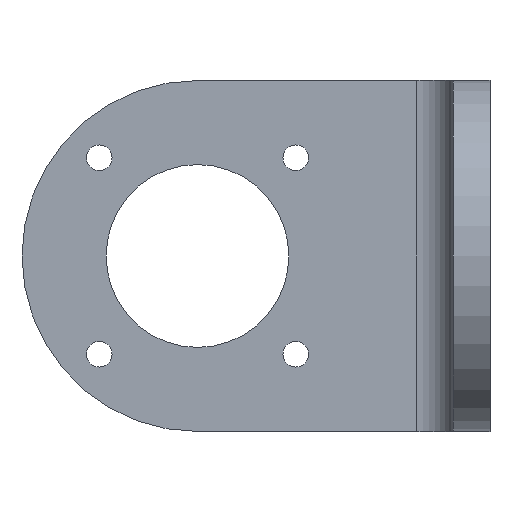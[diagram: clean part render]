
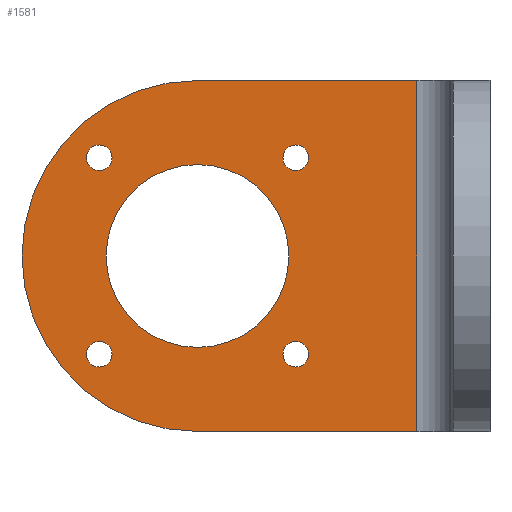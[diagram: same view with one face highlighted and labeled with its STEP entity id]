
A CAD part, left-side view. The second image highlights one B-rep face of the part: STEP entity #1581.
In plain terms, the highlighted planar face has unit normal (-1, 0, 0).
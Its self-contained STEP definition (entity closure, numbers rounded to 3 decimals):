
#12 = EDGE_CURVE ( 'NONE', #1565, #38, #1271, .T. ) ;
#13 = CARTESIAN_POINT ( 'NONE',  ( 55., 40., 0. ) ) ;
#14 = CIRCLE ( 'NONE', #1438, 1.75 ) ;
#18 = DIRECTION ( 'NONE',  ( 1., 0., 0. ) ) ;
#25 = EDGE_CURVE ( 'NONE', #1611, #418, #1558, .T. ) ;
#38 = VERTEX_POINT ( 'NONE', #713 ) ;
#64 = ORIENTED_EDGE ( 'NONE', *, *, #465, .F. ) ;
#65 = DIRECTION ( 'NONE',  ( 0., 0., -1. ) ) ;
#66 = ORIENTED_EDGE ( 'NONE', *, *, #527, .F. ) ;
#79 = DIRECTION ( 'NONE',  ( 0., 0., -1. ) ) ;
#93 = CARTESIAN_POINT ( 'NONE',  ( 55., 26.565, -15.185 ) ) ;
#101 = CARTESIAN_POINT ( 'NONE',  ( 55., 26.565, 13.435 ) ) ;
#112 = AXIS2_PLACEMENT_3D ( 'NONE', #467, #742, #79 ) ;
#132 = EDGE_CURVE ( 'NONE', #418, #1611, #1300, .T. ) ;
#136 = ORIENTED_EDGE ( 'NONE', *, *, #322, .T. ) ;
#153 = FACE_BOUND ( 'NONE', #1257, .T. ) ;
#156 = AXIS2_PLACEMENT_3D ( 'NONE', #1393, #261, #1516 ) ;
#157 = VECTOR ( 'NONE', #1122, 1000. ) ;
#160 = DIRECTION ( 'NONE',  ( 0., 0., -1. ) ) ;
#173 = DIRECTION ( 'NONE',  ( 1., 0., 0. ) ) ;
#176 = EDGE_CURVE ( 'NONE', #1221, #210, #327, .T. ) ;
#193 = CARTESIAN_POINT ( 'NONE',  ( 55., 10., 24. ) ) ;
#198 = AXIS2_PLACEMENT_3D ( 'NONE', #101, #603, #1115 ) ;
#210 = VERTEX_POINT ( 'NONE', #753 ) ;
#213 = VERTEX_POINT ( 'NONE', #253 ) ;
#239 = CARTESIAN_POINT ( 'NONE',  ( 55., 0., 24. ) ) ;
#253 = CARTESIAN_POINT ( 'NONE',  ( 55., 40., -24. ) ) ;
#260 = ORIENTED_EDGE ( 'NONE', *, *, #176, .T. ) ;
#261 = DIRECTION ( 'NONE',  ( 1., 0., 0. ) ) ;
#273 = AXIS2_PLACEMENT_3D ( 'NONE', #934, #816, #1330 ) ;
#278 = VERTEX_POINT ( 'NONE', #193 ) ;
#288 = CARTESIAN_POINT ( 'NONE',  ( 55., 26.565, -11.685 ) ) ;
#290 = DIRECTION ( 'NONE',  ( 1., 0., 0. ) ) ;
#293 = CARTESIAN_POINT ( 'NONE',  ( 55., 40., 24. ) ) ;
#314 = EDGE_CURVE ( 'NONE', #38, #1565, #1149, .T. ) ;
#318 = ORIENTED_EDGE ( 'NONE', *, *, #314, .T. ) ;
#322 = EDGE_CURVE ( 'NONE', #1032, #278, #434, .T. ) ;
#325 = EDGE_CURVE ( 'NONE', #580, #1183, #14, .T. ) ;
#327 = CIRCLE ( 'NONE', #379, 12.5 ) ;
#357 = DIRECTION ( 'NONE',  ( 0., 0., -1. ) ) ;
#364 = DIRECTION ( 'NONE',  ( 1., 0., 0. ) ) ;
#369 = LINE ( 'NONE', #1367, #157 ) ;
#379 = AXIS2_PLACEMENT_3D ( 'NONE', #476, #1620, #450 ) ;
#388 = VERTEX_POINT ( 'NONE', #293 ) ;
#394 = PLANE ( 'NONE',  #156 ) ;
#405 = CARTESIAN_POINT ( 'NONE',  ( 55., 26.565, -13.435 ) ) ;
#411 = CARTESIAN_POINT ( 'NONE',  ( 55., 53.435, -13.435 ) ) ;
#418 = VERTEX_POINT ( 'NONE', #1354 ) ;
#420 = ORIENTED_EDGE ( 'NONE', *, *, #132, .T. ) ;
#432 = AXIS2_PLACEMENT_3D ( 'NONE', #937, #173, #65 ) ;
#434 = LINE ( 'NONE', #672, #863 ) ;
#450 = DIRECTION ( 'NONE',  ( 0., 0., -1. ) ) ;
#465 = EDGE_CURVE ( 'NONE', #1032, #213, #369, .T. ) ;
#467 = CARTESIAN_POINT ( 'NONE',  ( 55., 53.435, -13.435 ) ) ;
#476 = CARTESIAN_POINT ( 'NONE',  ( 55., 40., 0. ) ) ;
#479 = AXIS2_PLACEMENT_3D ( 'NONE', #411, #290, #160 ) ;
#500 = DIRECTION ( 'NONE',  ( 0., 0., -1. ) ) ;
#514 = CARTESIAN_POINT ( 'NONE',  ( 55., 26.565, 11.685 ) ) ;
#516 = DIRECTION ( 'NONE',  ( 1., 0., 0. ) ) ;
#527 = EDGE_CURVE ( 'NONE', #213, #388, #1267, .T. ) ;
#536 = ORIENTED_EDGE ( 'NONE', *, *, #325, .T. ) ;
#555 = AXIS2_PLACEMENT_3D ( 'NONE', #13, #993, #605 ) ;
#571 = EDGE_CURVE ( 'NONE', #210, #1221, #1346, .T. ) ;
#580 = VERTEX_POINT ( 'NONE', #630 ) ;
#584 = EDGE_LOOP ( 'NONE', ( #1557, #536 ) ) ;
#603 = DIRECTION ( 'NONE',  ( 1., 0., 0. ) ) ;
#605 = DIRECTION ( 'NONE',  ( 0., 0., -1. ) ) ;
#630 = CARTESIAN_POINT ( 'NONE',  ( 55., 26.565, 15.185 ) ) ;
#640 = FACE_BOUND ( 'NONE', #1432, .T. ) ;
#666 = VERTEX_POINT ( 'NONE', #288 ) ;
#672 = CARTESIAN_POINT ( 'NONE',  ( 55., 10., 0. ) ) ;
#680 = DIRECTION ( 'NONE',  ( 1., 0., 0. ) ) ;
#713 = CARTESIAN_POINT ( 'NONE',  ( 55., 53.435, 15.185 ) ) ;
#730 = CIRCLE ( 'NONE', #198, 1.75 ) ;
#742 = DIRECTION ( 'NONE',  ( 1., 0., 0. ) ) ;
#753 = CARTESIAN_POINT ( 'NONE',  ( 55., 40., -12.5 ) ) ;
#763 = CARTESIAN_POINT ( 'NONE',  ( 55., 53.435, 11.685 ) ) ;
#795 = VERTEX_POINT ( 'NONE', #93 ) ;
#816 = DIRECTION ( 'NONE',  ( 1., 0., 0. ) ) ;
#830 = DIRECTION ( 'NONE',  ( 0., 0., -1. ) ) ;
#863 = VECTOR ( 'NONE', #1431, 1000. ) ;
#889 = EDGE_LOOP ( 'NONE', ( #64, #136, #1152, #66 ) ) ;
#890 = FACE_BOUND ( 'NONE', #1463, .T. ) ;
#934 = CARTESIAN_POINT ( 'NONE',  ( 55., 53.435, 13.435 ) ) ;
#937 = CARTESIAN_POINT ( 'NONE',  ( 55., 53.435, 13.435 ) ) ;
#946 = AXIS2_PLACEMENT_3D ( 'NONE', #1125, #364, #357 ) ;
#989 = LINE ( 'NONE', #239, #1622 ) ;
#991 = EDGE_CURVE ( 'NONE', #666, #795, #1050, .T. ) ;
#993 = DIRECTION ( 'NONE',  ( 1., 0., 0. ) ) ;
#1016 = FACE_BOUND ( 'NONE', #1076, .T. ) ;
#1018 = DIRECTION ( 'NONE',  ( 0., 0., -1. ) ) ;
#1023 = FACE_OUTER_BOUND ( 'NONE', #889, .T. ) ;
#1032 = VERTEX_POINT ( 'NONE', #1360 ) ;
#1050 = CIRCLE ( 'NONE', #946, 1.75 ) ;
#1055 = EDGE_CURVE ( 'NONE', #1183, #580, #730, .T. ) ;
#1057 = AXIS2_PLACEMENT_3D ( 'NONE', #1236, #516, #500 ) ;
#1074 = EDGE_CURVE ( 'NONE', #388, #278, #989, .T. ) ;
#1076 = EDGE_LOOP ( 'NONE', ( #1103, #260 ) ) ;
#1103 = ORIENTED_EDGE ( 'NONE', *, *, #571, .T. ) ;
#1108 = ORIENTED_EDGE ( 'NONE', *, *, #991, .T. ) ;
#1115 = DIRECTION ( 'NONE',  ( 0., 0., -1. ) ) ;
#1122 = DIRECTION ( 'NONE',  ( 0., 1., 0. ) ) ;
#1125 = CARTESIAN_POINT ( 'NONE',  ( 55., 26.565, -13.435 ) ) ;
#1138 = EDGE_CURVE ( 'NONE', #795, #666, #1146, .T. ) ;
#1146 = CIRCLE ( 'NONE', #1564, 1.75 ) ;
#1149 = CIRCLE ( 'NONE', #432, 1.75 ) ;
#1152 = ORIENTED_EDGE ( 'NONE', *, *, #1074, .F. ) ;
#1157 = ORIENTED_EDGE ( 'NONE', *, *, #25, .T. ) ;
#1183 = VERTEX_POINT ( 'NONE', #514 ) ;
#1221 = VERTEX_POINT ( 'NONE', #1290 ) ;
#1236 = CARTESIAN_POINT ( 'NONE',  ( 55., 40., 0. ) ) ;
#1257 = EDGE_LOOP ( 'NONE', ( #1466, #1108 ) ) ;
#1267 = CIRCLE ( 'NONE', #1057, 24. ) ;
#1271 = CIRCLE ( 'NONE', #273, 1.75 ) ;
#1272 = CARTESIAN_POINT ( 'NONE',  ( 55., 53.435, -15.185 ) ) ;
#1290 = CARTESIAN_POINT ( 'NONE',  ( 55., 40., 12.5 ) ) ;
#1295 = FACE_BOUND ( 'NONE', #584, .T. ) ;
#1300 = CIRCLE ( 'NONE', #112, 1.75 ) ;
#1330 = DIRECTION ( 'NONE',  ( 0., 0., -1. ) ) ;
#1346 = CIRCLE ( 'NONE', #555, 12.5 ) ;
#1354 = CARTESIAN_POINT ( 'NONE',  ( 55., 53.435, -11.685 ) ) ;
#1360 = CARTESIAN_POINT ( 'NONE',  ( 55., 10., -24. ) ) ;
#1367 = CARTESIAN_POINT ( 'NONE',  ( 55., 0., -24. ) ) ;
#1378 = ORIENTED_EDGE ( 'NONE', *, *, #12, .T. ) ;
#1393 = CARTESIAN_POINT ( 'NONE',  ( 55., 0., 0. ) ) ;
#1431 = DIRECTION ( 'NONE',  ( 0., 0., 1. ) ) ;
#1432 = EDGE_LOOP ( 'NONE', ( #1157, #420 ) ) ;
#1438 = AXIS2_PLACEMENT_3D ( 'NONE', #1575, #680, #830 ) ;
#1463 = EDGE_LOOP ( 'NONE', ( #1378, #318 ) ) ;
#1466 = ORIENTED_EDGE ( 'NONE', *, *, #1138, .T. ) ;
#1516 = DIRECTION ( 'NONE',  ( 0., 0., -1. ) ) ;
#1557 = ORIENTED_EDGE ( 'NONE', *, *, #1055, .T. ) ;
#1558 = CIRCLE ( 'NONE', #479, 1.75 ) ;
#1564 = AXIS2_PLACEMENT_3D ( 'NONE', #405, #18, #1018 ) ;
#1565 = VERTEX_POINT ( 'NONE', #763 ) ;
#1575 = CARTESIAN_POINT ( 'NONE',  ( 55., 26.565, 13.435 ) ) ;
#1581 = ADVANCED_FACE ( 'NONE', ( #1016, #1295, #153, #640, #890, #1023 ), #394, .F. ) ;
#1611 = VERTEX_POINT ( 'NONE', #1272 ) ;
#1620 = DIRECTION ( 'NONE',  ( 1., 0., 0. ) ) ;
#1622 = VECTOR ( 'NONE', #1625, 1000. ) ;
#1625 = DIRECTION ( 'NONE',  ( 0., -1., 0. ) ) ;
